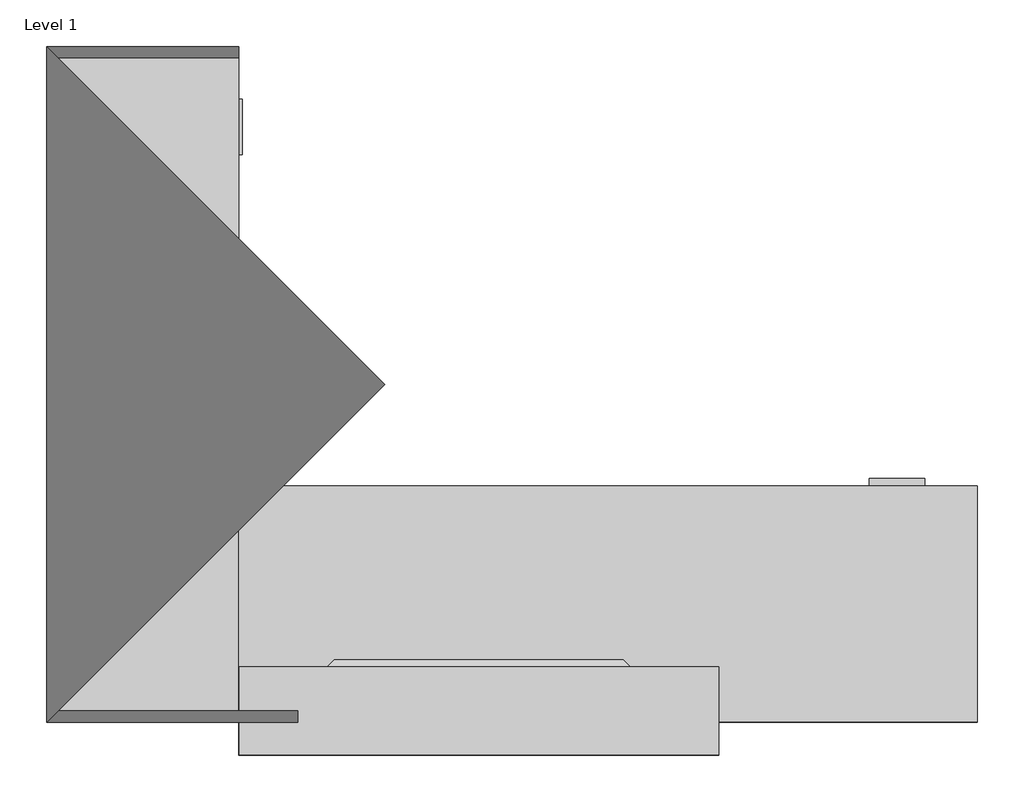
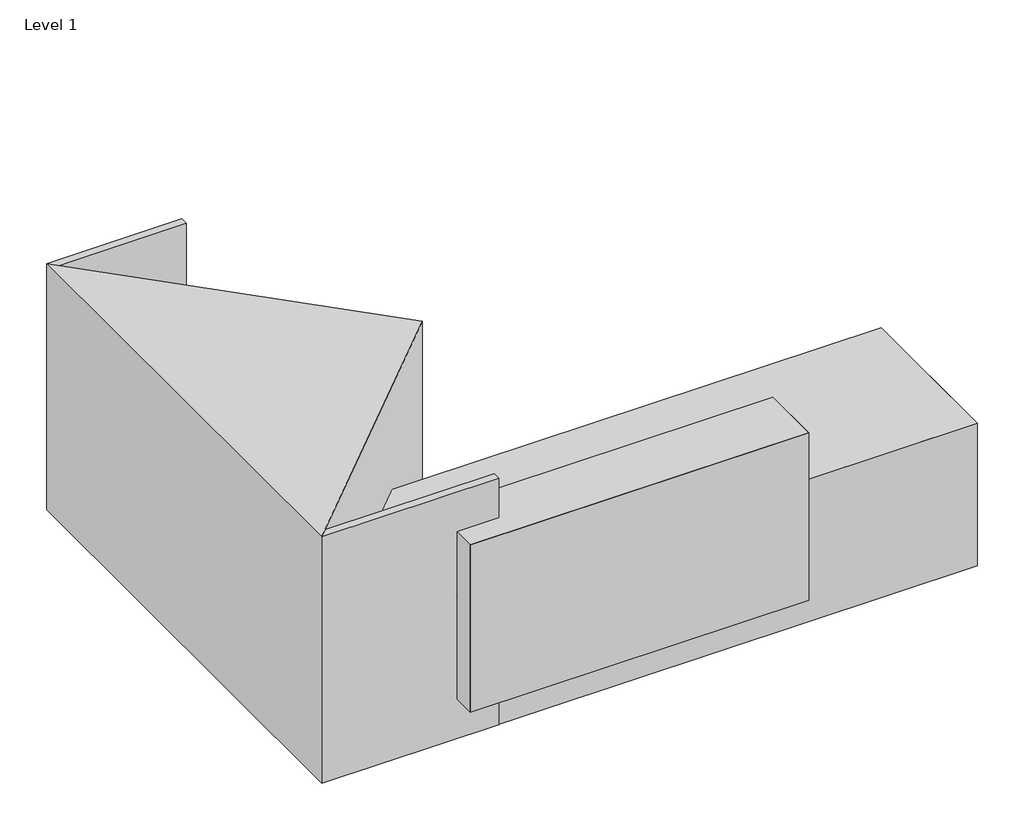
# One storey: 7 proxies.
"""IFC4 building model written with IfcOpenShell, lengths in millimetres."""

import ifcopenshell
import ifcopenshell.guid

model = None  # the IFC model being written
_history = None  # IfcOwnerHistory: only IFC2X3 demands one
_inside = {}  # id of a spatial element -> (the spatial element, [elements in it])
_under = {}  # id of a project, library or spatial element -> (it, [spatial elements below it])
_declared = {}  # id of a project -> (the project, [libraries it declares])
_typed = {}  # id of a type object -> (the type object, [elements of that type])
_made_of = {}  # id of a material, layer set ... -> (it, [elements and type objects made of it])


def new_model(schema):
    """Start an empty IFC model of exactly this schema.

    Asked for "IFC4X3", IfcOpenShell would pick the latest addendum, in which some entities
    have other attributes; the version numbers below select the first issue.
    IFC2X3 requires an IfcOwnerHistory on every rooted entity: one is made here for all.
    """
    global model, _history
    if schema == "IFC4X3":
        model = ifcopenshell.file(schema_version=(4, 3, 0, 0))
    else:
        model = ifcopenshell.file(schema=schema)
    _inside.clear()
    _under.clear()
    _declared.clear()
    _typed.clear()
    _made_of.clear()
    _history = None
    if model.schema == "IFC2X3":
        org = make("IfcOrganization", Name="unknown")
        user = make(
            "IfcPersonAndOrganization",
            ThePerson=make("IfcPerson", FamilyName="unknown"),
            TheOrganization=org,
        )
        app = make(
            "IfcApplication",
            ApplicationDeveloper=org,
            Version="unknown",
            ApplicationFullName="unknown",
            ApplicationIdentifier="unknown",
        )
        _history = make(
            "IfcOwnerHistory",
            OwningUser=user,
            OwningApplication=app,
            ChangeAction="ADDED",
            CreationDate=0,
        )
    return model


def make(cls, **values):
    """One entity of the class cls with the attributes given. An attribute that is None is left unset."""
    return model.create_entity(
        cls, **{name: value for name, value in values.items() if value is not None}
    )


def rooted(cls, **values):
    """An entity with a GlobalId (a new one), such as an element, a storey or a relation."""
    return make(cls, GlobalId=ifcopenshell.guid.new(), OwnerHistory=_history, **values)


def si_unit(unit_type, name, prefix=None):
    """IfcSIUnit, for example si_unit("LENGTHUNIT", "METRE", prefix="MILLI")."""
    return make("IfcSIUnit", UnitType=unit_type, Prefix=prefix, Name=name)


def assignment(units):
    """IfcUnitAssignment: the units of a project."""
    return None if units is None else make("IfcUnitAssignment", Units=units)


def point(xyz):
    """IfcCartesianPoint."""
    return None if xyz is None else make("IfcCartesianPoint", Coordinates=xyz)


def direction(xyz):
    """IfcDirection."""
    return None if xyz is None else make("IfcDirection", DirectionRatios=xyz)


def frame(location, z_axis=None, x_axis=None):
    """IfcAxis2Placement3D, a coordinate frame: its origin and axes. An axis left out is left unset."""
    return make(
        "IfcAxis2Placement3D",
        Location=point(location),
        Axis=direction(z_axis),
        RefDirection=direction(x_axis),
    )


def origin():
    """The frame at (0, 0, 0) with its axes left unset."""
    return frame((0.0, 0.0, 0.0))


def place(relative_to, where):
    """IfcLocalPlacement: puts the frame where relative to a parent placement (None: the world)."""
    return make(
        "IfcLocalPlacement", PlacementRelTo=relative_to, RelativePlacement=where
    )


def context(
    kind, dimensions, precision=None, world=None, true_north=None, identifier=None
):
    """IfcGeometricRepresentationContext, for example the 3D "Model" context."""
    return make(
        "IfcGeometricRepresentationContext",
        ContextIdentifier=identifier,
        ContextType=kind,
        CoordinateSpaceDimension=dimensions,
        Precision=precision,
        WorldCoordinateSystem=world,
        TrueNorth=true_north,
    )


def project(units=None, contexts=None):
    """IfcProject with its units and contexts."""
    return rooted(
        "IfcProject",
        Name="project",
        RepresentationContexts=contexts,
        UnitsInContext=assignment(units),
    )


def spatial(cls, under=None, at=None, **own):
    """A site, building, storey or space (cls), placed at a placement, below another one or the project."""
    s = rooted(cls, ObjectPlacement=at, **own)
    if under is not None:
        _under.setdefault(under.id(), (under, []))[1].append(s)
    return s


def polyline(points):
    """IfcPolyline through the points."""
    return make("IfcPolyline", Points=[point(p) for p in points])


def outline(outer, holes=None, kind="AREA"):
    """IfcArbitraryClosedProfileDef: a profile drawn as a closed curve; with holes, ...WithVoids."""
    if holes is None:
        return make("IfcArbitraryClosedProfileDef", ProfileType=kind, OuterCurve=outer)
    return make(
        "IfcArbitraryProfileDefWithVoids",
        ProfileType=kind,
        OuterCurve=outer,
        InnerCurves=holes,
    )


def extrude(swept, where, along, depth):
    """IfcExtrudedAreaSolid: the profile swept, set in the frame where, extruded along a direction by depth."""
    return make(
        "IfcExtrudedAreaSolid",
        SweptArea=swept,
        Position=where,
        ExtrudedDirection=direction(along),
        Depth=depth,
    )


def faces_of(points, faces, orient=None, outer=None):
    """IfcFace entities. A face is a list of loops; a loop is a list of indices into points, from 0.

    orient and outer hold one flag for each loop. By default every Orientation is true, the
    first loop of a face is its IfcFaceOuterBound and the others are IfcFaceBound.
    """
    made = []
    for i, loops in enumerate(faces):
        bounds = []
        for j, loop in enumerate(loops):
            is_outer = j == 0 if outer is None else outer[i][j]
            bounds.append(
                make(
                    "IfcFaceOuterBound" if is_outer else "IfcFaceBound",
                    Bound=make("IfcPolyLoop", Polygon=[points[k] for k in loop]),
                    Orientation=True if orient is None else orient[i][j],
                )
            )
        made.append(make("IfcFace", Bounds=bounds))
    return made


def faceted_brep(points, faces, orient=None, outer=None, voids=None):
    """IfcFacetedBrep: a solid bounded by flat faces; with voids (closed shells), ...WithVoids."""
    shared = [point(p) for p in points]
    hull = make("IfcClosedShell", CfsFaces=faces_of(shared, faces, orient, outer))
    if voids is None:
        return make("IfcFacetedBrep", Outer=hull)
    return make(
        "IfcFacetedBrepWithVoids",
        Outer=hull,
        Voids=[
            make(cls, CfsFaces=faces_of(shared, fs, o, b)) for cls, fs, o, b in voids
        ],
    )


def shape(context_of_items, identifier, shape_type, items):
    """IfcShapeRepresentation: the items that make up one representation, for example the "Body"."""
    return make(
        "IfcShapeRepresentation",
        ContextOfItems=context_of_items,
        RepresentationIdentifier=identifier,
        RepresentationType=shape_type,
        Items=items,
    )


def source(mapping_origin, context_of_items, identifier, shape_type, items):
    """IfcRepresentationMap: a shape defined once, which mapped items show again and again."""
    return make(
        "IfcRepresentationMap",
        MappingOrigin=mapping_origin,
        MappedRepresentation=shape(context_of_items, identifier, shape_type, items),
    )


def transform(
    local_origin,
    x_axis=None,
    y_axis=None,
    z_axis=None,
    scale=None,
    scale2=None,
    scale3=None,
    uniform=True,
):
    """IfcCartesianTransformationOperator3D, or its non-uniform kind. x_axis, y_axis, z_axis: its Axis1, 2, 3."""
    if uniform:
        return make(
            "IfcCartesianTransformationOperator3D",
            Axis1=direction(x_axis),
            Axis2=direction(y_axis),
            LocalOrigin=point(local_origin),
            Scale=scale,
            Axis3=direction(z_axis),
        )
    return make(
        "IfcCartesianTransformationOperator3DnonUniform",
        Axis1=direction(x_axis),
        Axis2=direction(y_axis),
        LocalOrigin=point(local_origin),
        Scale=scale,
        Axis3=direction(z_axis),
        Scale2=scale2,
        Scale3=scale3,
    )


def mapped(mapping_source, mapping_target):
    """IfcMappedItem: shows the shape of a source again, moved by a transform."""
    return make(
        "IfcMappedItem", MappingSource=mapping_source, MappingTarget=mapping_target
    )


def made_of(thing, what):
    """Note that an element or type object is made of a material, layer set ...; save() writes the relation."""
    if what is not None:
        _made_of.setdefault(what.id(), (what, []))[1].append(thing)
    return thing


def element(
    cls,
    number,
    at=None,
    inside=None,
    cuts=None,
    type_object=None,
    material=None,
    context=None,
    identifier="Body",
    shape_type=None,
    held_by="IfcProductDefinitionShape",
    body=None,
    shapes=None,
    **own,
):
    """One element of the class cls, such as IfcWall. Its Tag is "e" and its number.

    at: its placement. inside: the storey or other place that contains it. cuts: it is an
    opening in that element (IfcRelVoidsElement). A single representation is given by context,
    identifier, shape_type and body (its items); several are given by shapes. held_by: the class
    of the entity that holds the representations. save() writes the other relations.
    """
    e = rooted(cls, Tag="e%d" % number, ObjectPlacement=at, **own)
    if body is not None:
        shapes = [shape(context, identifier, shape_type, body)]
    if shapes is not None:
        e.Representation = make(held_by, Representations=shapes)
    if inside is not None:
        _inside.setdefault(inside.id(), (inside, []))[1].append(e)
    if cuts is not None:
        rooted(
            "IfcRelVoidsElement", RelatingBuildingElement=cuts, RelatedOpeningElement=e
        )
    if type_object is not None:
        _typed.setdefault(type_object.id(), (type_object, []))[1].append(e)
    return made_of(e, material)


def aggregate(whole, parts):
    """IfcRelAggregates: a whole, such as a stair, and the parts it consists of."""
    return rooted("IfcRelAggregates", RelatingObject=whole, RelatedObjects=parts)


def save(model, path):
    """Write the relations noted so far, then the file.

    IfcRelAggregates (storeys below a building ...), IfcRelContainedInSpatialStructure (elements
    in a storey), IfcRelDefinesByType, IfcRelAssociatesMaterial and IfcRelDeclares: one each for
    every whole, place, type object, material and project.
    """
    for whole, parts in _under.values():
        aggregate(whole, parts)
    for where, things in _inside.values():
        rooted(
            "IfcRelContainedInSpatialStructure",
            RelatedElements=things,
            RelatingStructure=where,
        )
    for kind, things in _typed.values():
        rooted("IfcRelDefinesByType", RelatedObjects=things, RelatingType=kind)
    for what, things in _made_of.values():
        rooted("IfcRelAssociatesMaterial", RelatedObjects=things, RelatingMaterial=what)
    for by, libraries in _declared.values():
        rooted("IfcRelDeclares", RelatingContext=by, RelatedDefinitions=libraries)
    model.write(path)


def generic_models_3ec2727e(model_context):
    return source(origin(), model_context, "Body", "SolidModel", [
        extrude(outline(polyline([(-1.5875, -328.6125), (-1585.9125, -328.6125), (-1585.9125, -33.3375), (-1.5875, -33.3375), (-1.5875, -328.6125)])), frame((0.0, 0.0, -133.35), z_axis=(0.0, 0.0, 1.0), x_axis=(1.0, 0.0, 0.0)), (0.0, 0.0, 1.0), 19.05),
        faceted_brep([(-793.75, -863.6, -825.5), (31.75, -863.6, 0.0), (-1619.25, -863.6, 0.0), (-793.75, -825.5, -825.5), (31.75, 0.0, 0.0), (-1619.25, 0.0, 0.0)], [[[0, 1, 2]], [[1, 0, 3, 4]], [[5, 2, 1, 4]], [[4, 3, 5]], [[0, 2, 5, 3]]]),
        faceted_brep([(-1619.25, -863.6, -304.8), (-1587.5, -863.6, -304.8), (-1587.5, -863.6, -31.75), (-1619.25, -863.6, 0.0), (-1619.25, 0.0, 0.0), (-1587.5, -31.75, -31.75), (-1587.5, -31.75, -304.8), (-1619.25, 0.0, -304.8)], [[[0, 1, 2, 3]], [[4, 3, 2, 5]], [[5, 6, 7, 4]], [[1, 6, 5, 2]], [[7, 6, 1, 0]], [[0, 3, 4, 7]]]),
        faceted_brep([(31.75, 0.0, -304.8), (0.0, -31.75, -304.8), (-1587.5, -31.75, -304.8), (-1619.25, 0.0, -304.8), (0.0, -31.75, -31.75), (-1587.5, -31.75, -31.75), (31.75, 0.0, 0.0), (-1619.25, 0.0, 0.0)], [[[0, 1, 2, 3]], [[1, 4, 5, 2]], [[4, 6, 7, 5]], [[6, 0, 3, 7]], [[2, 5, 7, 3]], [[4, 1, 0, 6]]]),
        extrude(outline(polyline([(0.0, -844.55), (0.0, -863.6), (-1587.5, -863.6), (-1587.5, -844.55), (0.0, -844.55)])), frame((0.0, 0.0, -114.3), z_axis=(0.0, 0.0, 1.0), x_axis=(1.0, 0.0, 0.0)), (0.0, 0.0, 1.0), 82.55),
        faceted_brep([(0.0, -863.6, -304.8), (31.75, -863.6, -304.8), (31.75, -863.6, 0.0), (0.0, -863.6, -31.75), (31.75, 0.0, -304.8), (31.75, 0.0, 0.0), (0.0, -31.75, -304.8), (0.0, -31.75, -31.75)], [[[0, 1, 2, 3]], [[2, 1, 4, 5]], [[5, 4, 6, 7]], [[7, 3, 2, 5]], [[3, 7, 6, 0]], [[6, 4, 1, 0]]]),
    ])


def generic_models_16f8150b(model_context):
    return source(origin(), model_context, "Body", "SweptSolid", [
        extrude(outline(polyline([(234.6325, 0.0), (42.8625, 0.0), (42.8625, 8.89), (234.6325, 8.89), (234.6325, 0.0)])), frame((0.0, 0.0, 25.4), z_axis=(0.0, 0.0, 1.0), x_axis=(1.0, 0.0, 0.0)), (0.0, 0.0, 1.0), 27.94),
    ])


def generic_models_883a1e68(model_context):
    return source(origin(), model_context, "Body", "SolidModel", [
        extrude(outline(polyline([(-34.925, 526.653125), (-34.925, 696.11875), (-15.875, 696.11875), (-15.875, 526.653125), (-34.925, 526.653125)])), frame((0.0, 0.0, -2245.51875), z_axis=(0.0, 0.0, 1.0), x_axis=(1.0, 0.0, 0.0)), (0.0, 0.0, 1.0), 471.4875),
        extrude(outline(polyline([(-622.3, 19.05), (-622.3, 698.5), (-38.1, 698.5), (-38.1, 19.05), (-622.3, 19.05)])), frame((0.0, 0.0, -2247.9), z_axis=(0.0, 0.0, 1.0), x_axis=(1.0, 0.0, 0.0)), (0.0, 0.0, 1.0), 19.05),
        extrude(outline(polyline([(-2286.0, -660.4), (-1123.95, 501.65), (38.1, -660.4), (-2286.0, -660.4)])), frame((0.0, 0.0, 0.0), z_axis=(0.0, 1.0, 0.0), x_axis=(0.0, 0.0, 1.0)), (0.0, 0.0, 1.0), 1270.0),
        extrude(outline(polyline([(-34.925, 354.80625), (-34.925, 524.271875), (-15.875, 524.271875), (-15.875, 354.80625), (-34.925, 354.80625)])), frame((0.0, 0.0, -2245.51875), z_axis=(0.0, 0.0, 1.0), x_axis=(1.0, 0.0, 0.0)), (0.0, 0.0, 1.0), 471.4875),
        extrude(outline(polyline([(2499.51875, 354.80625), (2028.03125, 354.80625), (2028.03125, 696.11875), (2499.51875, 696.11875), (2499.51875, 354.80625)])), frame((0.0, 0.0, -771.525), z_axis=(0.0, 0.0, 1.0), x_axis=(1.0, 0.0, 0.0)), (0.0, 0.0, 1.0), 19.05),
        faceted_brep([(2540.0, 736.6, -774.7), (2540.0, 736.6, 38.1), (2540.0, 0.0, 38.1), (2540.0, 0.0, -774.7), (2501.9, 698.5, 0.0), (2501.9, 0.0, 0.0), (2501.9, 698.5, -774.7), (2501.9, 0.0, -774.7)], [[[0, 1, 2, 3]], [[1, 4, 5, 2]], [[4, 6, 7, 5]], [[6, 0, 3, 7]], [[3, 2, 5, 7]], [[4, 1, 0, 6]]]),
        extrude(outline(polyline([(-622.3, 19.05), (-622.3, 698.5), (-38.1, 698.5), (-38.1, 19.05), (-622.3, 19.05)])), frame((0.0, 0.0, -1790.7), z_axis=(0.0, 0.0, 1.0), x_axis=(1.0, 0.0, 0.0)), (0.0, 0.0, 1.0), 19.05),
        extrude(outline(polyline([(-38.1, 38.1), (-38.1, 0.0), (-603.25, 0.0), (-603.25, 38.1), (-38.1, 38.1)])), frame((0.0, 0.0, -2228.85), z_axis=(0.0, 0.0, 1.0), x_axis=(1.0, 0.0, 0.0)), (0.0, 0.0, 1.0), 438.15),
        extrude(outline(polyline([(2482.85, 38.1), (2482.85, 0.0), (2044.7, 0.0), (2044.7, 38.1), (2482.85, 38.1)])), frame((0.0, 0.0, -749.3), z_axis=(0.0, 0.0, 1.0), x_axis=(1.0, 0.0, 0.0)), (0.0, 0.0, 1.0), 730.25),
        extrude(outline(polyline([(2482.85, 698.5), (2482.85, 19.05), (2044.7, 19.05), (2044.7, 698.5), (2482.85, 698.5)])), frame((0.0, 0.0, -19.05), z_axis=(0.0, 0.0, 1.0), x_axis=(1.0, 0.0, 0.0)), (0.0, 0.0, 1.0), 19.05),
        extrude(outline(polyline([(-34.925, 19.05), (-34.925, 352.425), (-15.875, 352.425), (-15.875, 19.05), (-34.925, 19.05)])), frame((0.0, 0.0, -2245.51875), z_axis=(0.0, 0.0, 1.0), x_axis=(1.0, 0.0, 0.0)), (0.0, 0.0, 1.0), 471.4875),
        extrude(outline(polyline([(-2247.9, 0.0), (-2247.9, -622.3), (-2286.0, -660.4), (-2286.0, 0.0), (-2247.9, 0.0)])), frame((0.0, 0.0, 0.0), z_axis=(0.0, 1.0, 0.0), x_axis=(0.0, 0.0, 1.0)), (0.0, 0.0, 1.0), 1270.0),
        faceted_brep([(0.0, 736.6, -774.7), (0.0, 736.6, 38.1), (2540.0, 736.6, 38.1), (2540.0, 736.6, -774.7), (2501.9, 698.5, -774.7), (2501.9, 698.5, 0.0), (0.0, 698.5, 0.0), (0.0, 698.5, -774.7)], [[[0, 1, 2, 3]], [[4, 5, 6, 7]], [[4, 3, 2, 5]], [[3, 4, 7, 0]], [[5, 2, 1, 6]], [[0, 7, 6, 1]]]),
        extrude(outline(polyline([(2499.51875, 19.05), (2028.03125, 19.05), (2028.03125, 352.425), (2499.51875, 352.425), (2499.51875, 19.05)])), frame((0.0, 0.0, -771.525), z_axis=(0.0, 0.0, 1.0), x_axis=(1.0, 0.0, 0.0)), (0.0, 0.0, 1.0), 19.05),
        extrude(outline(polyline([(2044.7, 698.5), (2044.7, 19.05), (2025.65, 19.05), (2025.65, 698.5), (2044.7, 698.5)])), frame((0.0, 0.0, -749.3), z_axis=(0.0, 0.0, 1.0), x_axis=(1.0, 0.0, 0.0)), (0.0, 0.0, 1.0), 749.3),
        extrude(outline(polyline([(2044.7, 698.5), (2482.85, 698.5), (2482.85, 679.45), (2044.7, 679.45), (2044.7, 698.5)])), frame((0.0, 0.0, -749.3), z_axis=(0.0, 0.0, 1.0), x_axis=(1.0, 0.0, 0.0)), (0.0, 0.0, 1.0), 730.25),
        extrude(outline(polyline([(38.1, -660.4), (0.0, -622.3), (0.0, 203.2), (38.1, 203.2), (38.1, -660.4)])), frame((0.0, 0.0, 0.0), z_axis=(0.0, 1.0, 0.0), x_axis=(0.0, 0.0, 1.0)), (0.0, 0.0, 1.0), 1270.0),
        extrude(outline(polyline([(-38.1, 698.5), (-38.1, 679.45), (-603.25, 679.45), (-603.25, 698.5), (-38.1, 698.5)])), frame((0.0, 0.0, -2228.85), z_axis=(0.0, 0.0, 1.0), x_axis=(1.0, 0.0, 0.0)), (0.0, 0.0, 1.0), 438.15),
        extrude(outline(polyline([(0.0, 736.6), (0.0, 698.5), (-622.3, 698.5), (-622.3, 736.6), (0.0, 736.6)])), frame((0.0, 0.0, -2247.9), z_axis=(0.0, 0.0, 1.0), x_axis=(1.0, 0.0, 0.0)), (0.0, 0.0, 1.0), 2247.9),
        faceted_brep([(2540.0, 736.6, 38.1), (2540.0, 0.0, 38.1), (2501.9, 0.0, 0.0), (2501.9, 698.5, 0.0), (0.0, 698.5, 0.0), (0.0, 736.6, 38.1), (0.0, 0.0, 0.0), (0.0, 0.0, 38.1)], [[[0, 1, 2, 3]], [[3, 4, 5, 0]], [[5, 4, 6, 7]], [[2, 1, 7, 6]], [[1, 0, 5, 7]], [[3, 2, 6, 4]]]),
        extrude(outline(polyline([(2501.9, 19.05), (2482.85, 19.05), (2482.85, 698.5), (2501.9, 698.5), (2501.9, 19.05)])), frame((0.0, 0.0, -749.3), z_axis=(0.0, 0.0, 1.0), x_axis=(1.0, 0.0, 0.0)), (0.0, 0.0, 1.0), 749.3),
    ])


model = new_model("IFC4")

# Units and contexts
model_context = context("Model", 3, world=origin())
ifc_project = project(units=[si_unit("LENGTHUNIT", "METRE", prefix="MILLI")], contexts=[model_context])

# Site, building, storey
site = spatial("IfcSite", under=ifc_project)
building = spatial("IfcBuilding", under=site)
storey = spatial("IfcBuildingStorey", under=building, Name="Level 1", Elevation=0.0)

# Proxies
placement = place(None, origin())
generic_models_shape = generic_models_3ec2727e(model_context)
element("IfcBuildingElementProxy", 1, Name="SALUTE^ADMIN 5_34x65 STRAIGHT TRANS-PARTS SOLID", ObjectType="SALUTE^ADMIN 5_34x65 STRAIGHT TRANS-PARTS SOLID", at=placement, inside=storey, context=model_context, shape_type="MappedRepresentation", body=[
    mapped(generic_models_shape, transform((2279.65, -2438.4, 1066.8), x_axis=(1.0, 0.0, 0.0), y_axis=(0.0, 0.0, 1.0), z_axis=(0.0, -1.0, 0.0))),
])
generic_models_2_shape = generic_models_16f8150b(model_context)
element("IfcBuildingElementProxy", 2, Name="HAFELE 102.12.004-7_5 INCH", ObjectType="HAFELE 102.12.004-7_5 INCH", at=placement, inside=storey, context=model_context, shape_type="MappedRepresentation", body=[
    mapped(generic_models_2_shape, transform((619.125, -414.9725, 640.87375), x_axis=(0.0, 1.0, 0.0), y_axis=(0.0, 0.0, 1.0), z_axis=(1.0, 0.0, 0.0))),
])
element("IfcBuildingElementProxy", 3, Name="HAFELE 102.12.004-7_5 INCH", ObjectType="HAFELE 102.12.004-7_5 INCH", at=placement, inside=storey, context=model_context, shape_type="MappedRepresentation", body=[
    mapped(generic_models_2_shape, transform((3062.9225, -1539.875, 297.18), x_axis=(-1.0, 0.0, 0.0), y_axis=(0.0, 0.0, 1.0), z_axis=(0.0, 1.0, 0.0))),
])
element("IfcBuildingElementProxy", 4, Name="HAFELE 102.12.004-7_5 INCH", ObjectType="HAFELE 102.12.004-7_5 INCH", at=placement, inside=storey, context=model_context, shape_type="MappedRepresentation", body=[
    mapped(generic_models_2_shape, transform((3062.9225, -1539.875, 640.87375), x_axis=(-1.0, 0.0, 0.0), y_axis=(0.0, 0.0, 1.0), z_axis=(0.0, 1.0, 0.0))),
])
element("IfcBuildingElementProxy", 5, Name="HAFELE 102.12.004-7_5 INCH", ObjectType="HAFELE 102.12.004-7_5 INCH", at=placement, inside=storey, context=model_context, shape_type="MappedRepresentation", body=[
    mapped(generic_models_2_shape, transform((619.125, -414.9725, 469.026875), x_axis=(0.0, 1.0, 0.0), y_axis=(0.0, 0.0, 1.0), z_axis=(1.0, 0.0, 0.0))),
])
element("IfcBuildingElementProxy", 6, Name="HAFELE 102.12.004-7_5 INCH", ObjectType="HAFELE 102.12.004-7_5 INCH", at=placement, inside=storey, context=model_context, shape_type="MappedRepresentation", body=[
    mapped(generic_models_2_shape, transform((619.125, -414.9725, 297.18), x_axis=(0.0, 1.0, 0.0), y_axis=(0.0, 0.0, 1.0), z_axis=(1.0, 0.0, 0.0))),
])
generic_models_3_shape = generic_models_883a1e68(model_context)
element("IfcBuildingElementProxy", 7, Name="SALUTE^ADMIN 5A_100in DESK L SHAPED-PARTS SOLID", ObjectType="SALUTE^ADMIN 5A_100in DESK L SHAPED-PARTS SOLID", at=placement, inside=storey, context=model_context, shape_type="MappedRepresentation", body=[
    mapped(generic_models_3_shape, transform((660.4, -2286.0, 0.0), x_axis=(1.0, 0.0, 0.0), y_axis=(0.0, 0.0, 1.0), z_axis=(0.0, -1.0, 0.0))),
])

save(model, "model.ifc")
